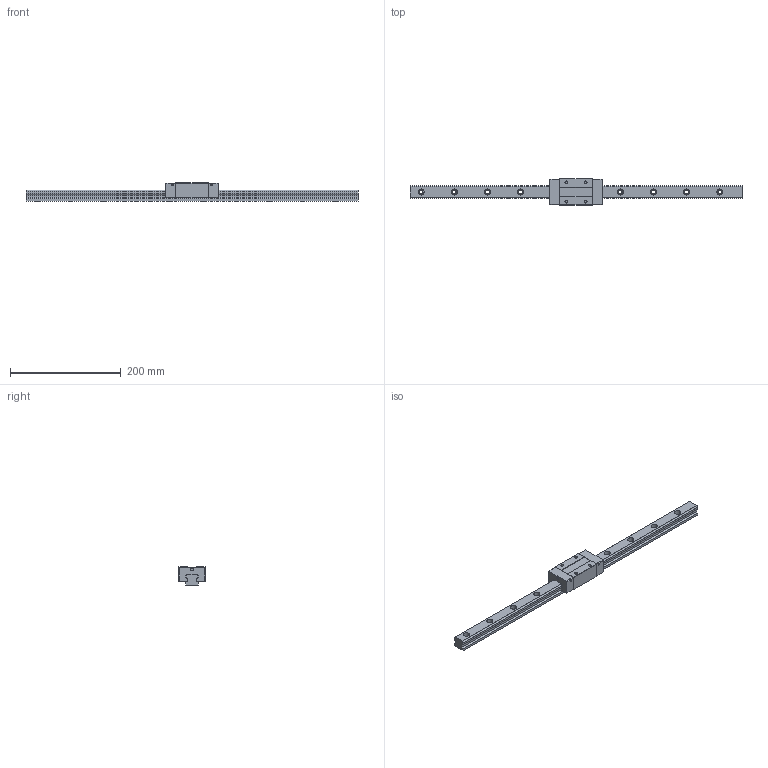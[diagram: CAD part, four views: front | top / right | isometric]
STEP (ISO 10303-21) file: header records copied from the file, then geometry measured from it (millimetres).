
FILE_DESCRIPTION (( 'STEP AP203' ), '1' );
FILE_NAME ('TRS25VN-SZ.STEP', '2024-07-11T08:10:47', ( '' ), ( '' ), 'SwSTEP 2.0', 'SolidWorks 2022', '' );
FILE_SCHEMA (( 'CONFIG_CONTROL_DESIGN' ));
Length unit declared in the file: millimetre
Products named in the file (1): TRS25VN-SZ
Bounding box: 600 x 48 x 33 mm (x, y, z)
Volume: 326481.5 mm3; surface area: 78812.5 mm2
Topology: 2 solids, 2 shells, 192 faces, 496 edges, 328 vertices
Faces by surface type: cylinder 96, plane 96
Entity records: 6023 total; most frequent: DIRECTION 1074, CARTESIAN_POINT 1017, ORIENTED_EDGE 992, EDGE_CURVE 496, AXIS2_PLACEMENT_3D 385, VERTEX_POINT 328, LINE 304, VECTOR 304
